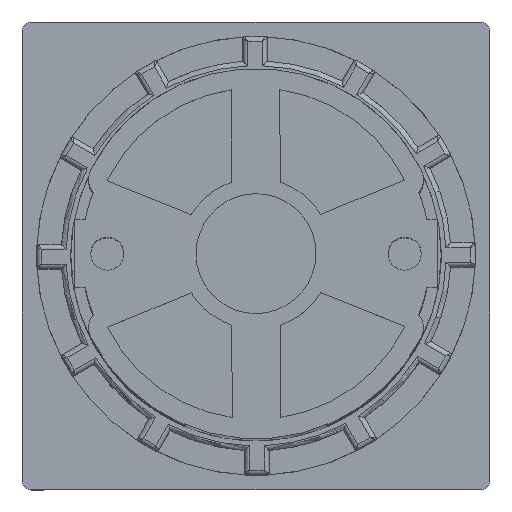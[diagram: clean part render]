
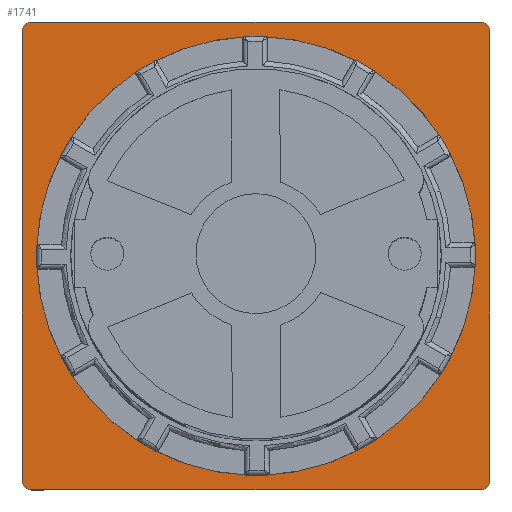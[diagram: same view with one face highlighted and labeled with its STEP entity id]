
A CAD part, top view. The second image highlights one B-rep face of the part: STEP entity #1741.
In plain terms, the highlighted planar face has unit normal (0, 0, 1).
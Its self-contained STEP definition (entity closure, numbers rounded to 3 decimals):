
#758=FACE_BOUND('',#5956,.T.);
#759=FACE_BOUND('',#5957,.T.);
#1741=ADVANCED_FACE('',(#758,#759),#3221,.F.);
#3221=PLANE('',#29796);
#5956=EDGE_LOOP('',(#13933,#13934,#13935,#13936,#13937,#13938,#13939,#13940));
#5957=EDGE_LOOP('',(#13941));
#7983=LINE('',#42125,#10573);
#7984=LINE('',#42130,#10574);
#7985=LINE('',#42134,#10575);
#7986=LINE('',#42138,#10576);
#10573=VECTOR('',#33260,1.);
#10574=VECTOR('',#33263,1.);
#10575=VECTOR('',#33266,1.);
#10576=VECTOR('',#33269,1.);
#13933=ORIENTED_EDGE('',*,*,#24796,.F.);
#13934=ORIENTED_EDGE('',*,*,#24797,.F.);
#13935=ORIENTED_EDGE('',*,*,#24798,.F.);
#13936=ORIENTED_EDGE('',*,*,#24799,.F.);
#13937=ORIENTED_EDGE('',*,*,#24800,.F.);
#13938=ORIENTED_EDGE('',*,*,#24801,.F.);
#13939=ORIENTED_EDGE('',*,*,#24802,.F.);
#13940=ORIENTED_EDGE('',*,*,#24803,.F.);
#13941=ORIENTED_EDGE('',*,*,#24758,.T.);
#21750=VERTEX_POINT('',#42030);
#21768=VERTEX_POINT('',#42126);
#21769=VERTEX_POINT('',#42127);
#21770=VERTEX_POINT('',#42129);
#21771=VERTEX_POINT('',#42131);
#21772=VERTEX_POINT('',#42133);
#21773=VERTEX_POINT('',#42135);
#21774=VERTEX_POINT('',#42137);
#21775=VERTEX_POINT('',#42139);
#24758=EDGE_CURVE('',#21750,#21750,#28528,.T.);
#24796=EDGE_CURVE('',#21768,#21769,#7983,.T.);
#24797=EDGE_CURVE('',#21770,#21768,#28558,.T.);
#24798=EDGE_CURVE('',#21771,#21770,#7984,.T.);
#24799=EDGE_CURVE('',#21772,#21771,#28559,.T.);
#24800=EDGE_CURVE('',#21773,#21772,#7985,.T.);
#24801=EDGE_CURVE('',#21774,#21773,#28560,.T.);
#24802=EDGE_CURVE('',#21775,#21774,#7986,.T.);
#24803=EDGE_CURVE('',#21769,#21775,#28561,.T.);
#28528=CIRCLE('',#29754,22.5);
#28558=CIRCLE('',#29792,1.);
#28559=CIRCLE('',#29793,1.);
#28560=CIRCLE('',#29794,1.);
#28561=CIRCLE('',#29795,1.);
#29754=AXIS2_PLACEMENT_3D('',#42029,#33176,#33177);
#29792=AXIS2_PLACEMENT_3D('',#42128,#33261,#33262);
#29793=AXIS2_PLACEMENT_3D('',#42132,#33264,#33265);
#29794=AXIS2_PLACEMENT_3D('',#42136,#33267,#33268);
#29795=AXIS2_PLACEMENT_3D('',#42140,#33270,#33271);
#29796=AXIS2_PLACEMENT_3D('',#42141,#33272,#33273);
#33176=DIRECTION('',(0.,0.,-1.));
#33177=DIRECTION('',(0.,1.,0.));
#33260=DIRECTION('',(0.,1.,0.));
#33261=DIRECTION('',(0.,0.,-1.));
#33262=DIRECTION('',(1.,0.,0.));
#33263=DIRECTION('',(-1.,0.,0.));
#33264=DIRECTION('',(0.,0.,-1.));
#33265=DIRECTION('',(1.,0.,0.));
#33266=DIRECTION('',(0.,-1.,0.));
#33267=DIRECTION('',(0.,0.,-1.));
#33268=DIRECTION('',(1.,0.,0.));
#33269=DIRECTION('',(1.,0.,0.));
#33270=DIRECTION('',(0.,0.,-1.));
#33271=DIRECTION('',(1.,0.,0.));
#33272=DIRECTION('',(0.,0.,-1.));
#33273=DIRECTION('',(-1.,0.,0.));
#42029=CARTESIAN_POINT('',(0.,0.,-18.4));
#42030=CARTESIAN_POINT('',(0.,22.5,-18.4));
#42125=CARTESIAN_POINT('',(-24.,-23.,-18.4));
#42126=CARTESIAN_POINT('',(-24.,-23.,-18.4));
#42127=CARTESIAN_POINT('',(-24.,23.,-18.4));
#42128=CARTESIAN_POINT('',(-23.,-23.,-18.4));
#42129=CARTESIAN_POINT('',(-23.,-24.,-18.4));
#42130=CARTESIAN_POINT('',(23.,-24.,-18.4));
#42131=CARTESIAN_POINT('',(23.,-24.,-18.4));
#42132=CARTESIAN_POINT('',(23.,-23.,-18.4));
#42133=CARTESIAN_POINT('',(24.,-23.,-18.4));
#42134=CARTESIAN_POINT('',(24.,23.,-18.4));
#42135=CARTESIAN_POINT('',(24.,23.,-18.4));
#42136=CARTESIAN_POINT('',(23.,23.,-18.4));
#42137=CARTESIAN_POINT('',(23.,24.,-18.4));
#42138=CARTESIAN_POINT('',(-23.,24.,-18.4));
#42139=CARTESIAN_POINT('',(-23.,24.,-18.4));
#42140=CARTESIAN_POINT('',(-23.,23.,-18.4));
#42141=CARTESIAN_POINT('',(-23.,23.,-18.4));
